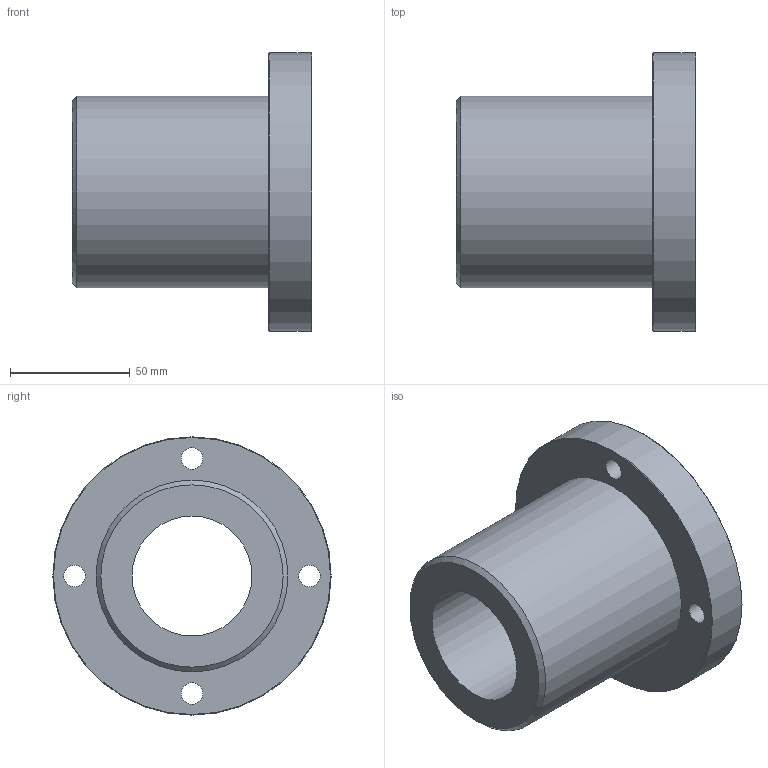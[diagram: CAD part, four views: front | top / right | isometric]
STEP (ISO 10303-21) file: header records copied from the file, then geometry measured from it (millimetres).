
FILE_DESCRIPTION(('STEP AP203'),'1');
FILE_NAME('//192.168.1.1/share/s-4 技術開発/s-4-4_CAD/s-4-4-3_見直し済み/PBC LINEAR修正済み/3D途中/SFPJ/SFPJR/SFPJR50.step','2022-03-24T06:28:09',(' '),(' '),'Spatial InterOp 3D',' ',' ');
FILE_SCHEMA(('CONFIG_CONTROL_DESIGN'));
Length unit declared in the file: millimetre
Products named in the file (1): 1
Bounding box: 100 x 116 x 116 mm (x, y, z)
Volume: 398032.5 mm3; surface area: 61713.6 mm2
Topology: 1 solids, 1 shells, 21 faces, 43 edges, 29 vertices
Faces by surface type: cylinder 11, plane 7, cone 3
Full cylindrical faces by diameter (mm): 9 x4, 14 x4, 50 x1, 80 x1, 116 x1
Entity records: 528 total; most frequent: DIRECTION 94, CARTESIAN_POINT 72, EDGE_LOOP 50, ORIENTED_EDGE 50, AXIS2_PLACEMENT_3D 47, FACE_OUTER_BOUND 32, EDGE_CURVE 25, VERTEX_POINT 25
